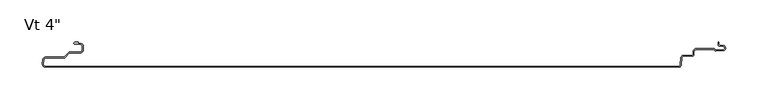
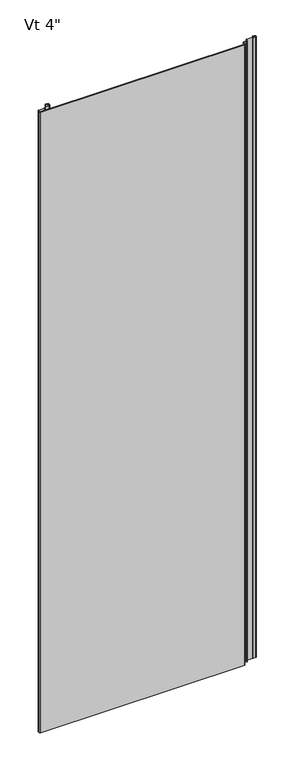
"""IFC4 building model written with IfcOpenShell, lengths in millimetres: plate geometry."""

from ifc_helpers import new_model, si_unit, point, frame_2d, origin, origin_with_axes, place, context, project, spatial, polyline, circle_curve, trimmed, segment, composite_curve, outline, extrude, source, transform, mapped, element, save


def plate_5742ab6b(model_context):
    return source(origin(), model_context, "Body", "SweptSolid", [
        extrude(outline(composite_curve([segment(polyline([(-417.0087549, -97.7184064), (-416.5690675, -92.694441)]), True, "CONTINUOUS"), segment(trimmed(circle_curve(frame_2d((-412.9198392, -93.3052421)), 3.6999926), [point((-416.5690675, -92.694441))], [point((-412.9198392, -89.6052495))], False, "CARTESIAN"), True, "CONTINUOUS"), segment(polyline([(-412.9198392, -89.6052495), (-391.7773997, -89.6052495)]), True, "CONTINUOUS"), segment(trimmed(circle_curve(frame_2d((-391.7773997, -88.3052521)), 1.2999974), [point((-391.7773997, -89.6052495))], [point((-390.8581627, -89.2244891))], True, "CARTESIAN"), True, "CONTINUOUS"), segment(polyline([(-390.8581627, -89.2244891), (-386.0297453, -84.3960716)]), True, "CONTINUOUS"), segment(trimmed(circle_curve(frame_2d((-384.1205608, -86.3052561)), 2.6999946), [point((-386.0297453, -84.3960716))], [point((-384.1205608, -83.6052615))], False, "CARTESIAN"), True, "CONTINUOUS"), segment(polyline([(-384.1205608, -83.6052615), (-372.3096717, -83.6052615)]), True, "CONTINUOUS"), segment(trimmed(circle_curve(frame_2d((-372.3096717, -81.2552662)), 2.3499953), [point((-372.3096717, -83.6052615))], [point((-369.9596764, -81.2552662))], True, "CARTESIAN"), True, "CONTINUOUS"), segment(polyline([(-369.9596764, -81.2552662), (-369.9596764, -76.855275)]), True, "CONTINUOUS"), segment(trimmed(circle_curve(frame_2d((-372.3096717, -76.855275)), 2.3499953), [point((-369.9596764, -76.855275))], [point((-372.3096717, -74.5052797))], True, "CARTESIAN"), True, "CONTINUOUS"), segment(polyline([(-372.3096717, -74.5052797), (-378.8289779, -74.5052797)]), True, "CONTINUOUS"), segment(trimmed(circle_curve(frame_2d((-378.7686908, -73.3067974)), 1.1999976), [point((-378.8289779, -74.5052797))], [point((-379.9683001, -73.2762755))], False, "CARTESIAN"), True, "CONTINUOUS"), segment(trimmed(circle_curve(frame_2d((-378.7686908, -73.3067974)), 1.1999976), [point((-379.9683001, -73.2762755))], [point((-378.7671761, -72.1068008))], False, "CARTESIAN"), True, "CONTINUOUS"), segment(polyline([(-378.7671761, -72.1068008), (-375.0087827, -72.1068008), (-375.0087827, -73.5052797), (-372.3096717, -73.5052797)]), True, "CONTINUOUS"), segment(trimmed(circle_curve(frame_2d((-372.3096717, -76.855275)), 3.3499953), [point((-372.3096717, -73.5052797))], [point((-368.9596764, -76.855275))], False, "CARTESIAN"), True, "CONTINUOUS"), segment(polyline([(-368.9596764, -76.855275), (-368.9596764, -81.2552662)]), True, "CONTINUOUS"), segment(trimmed(circle_curve(frame_2d((-372.3096717, -81.2552662)), 3.3499953), [point((-368.9596764, -81.2552662))], [point((-372.3096717, -84.6052615))], False, "CARTESIAN"), True, "CONTINUOUS"), segment(polyline([(-372.3096717, -84.6052615), (-384.1205608, -84.6052615)]), True, "CONTINUOUS"), segment(trimmed(circle_curve(frame_2d((-384.1205608, -86.3052561)), 1.6999946), [point((-384.1205608, -84.6052615))], [point((-385.3226385, -85.1031784))], True, "CARTESIAN"), True, "CONTINUOUS"), segment(polyline([(-385.3226385, -85.1031784), (-390.8247096, -90.6052495), (-412.9198392, -90.6052495)]), True, "CONTINUOUS"), segment(trimmed(circle_curve(frame_2d((-412.9198392, -93.3052421)), 2.6999926), [point((-412.9198392, -90.6052495))], [point((-415.5765709, -92.8238515))], True, "CARTESIAN"), True, "CONTINUOUS"), segment(polyline([(-415.5765709, -92.8238515), (-416.0125699, -97.8056723)]), True, "CONTINUOUS"), segment(trimmed(circle_curve(frame_2d((-413.4521176, -98.029758)), 2.5702393), [point((-416.0125699, -97.8056723))], [point((-413.509446, -100.5993578))], True, "CARTESIAN"), True, "CONTINUOUS"), segment(polyline([(-413.509446, -100.5993578), (332.5384359, -100.5993578)]), True, "CONTINUOUS"), segment(trimmed(circle_curve(frame_2d((332.5384359, -98.6493637)), 1.9499941), [point((332.5384359, -100.5993578))], [point((334.4810097, -98.8193169))], True, "CARTESIAN"), True, "CONTINUOUS"), segment(polyline([(334.4810097, -98.8193169), (335.2215397, -90.3550205)]), True, "CONTINUOUS"), segment(trimmed(circle_curve(frame_2d((338.2400056, -90.619102)), 3.0299959), [point((335.2215397, -90.3550205))], [point((338.3657441, -87.5917162))], False, "CARTESIAN"), True, "CONTINUOUS"), segment(polyline([(338.3657441, -87.5917162), (348.4586765, -87.5917162)]), True, "CONTINUOUS"), segment(trimmed(circle_curve(frame_2d((348.4595944, -86.6425632)), 0.9491534), [point((348.4586765, -87.5917162))], [point((349.4087478, -86.6425632))], True, "CARTESIAN"), True, "CONTINUOUS"), segment(polyline([(349.4087478, -86.6425632), (349.4087475, -83.5011631)]), True, "CONTINUOUS"), segment(trimmed(circle_curve(frame_2d((353.4087415, -83.5011631)), 3.999994), [point((349.4087475, -83.5011631))], [point((353.4087415, -79.5011691))], False, "CARTESIAN"), True, "CONTINUOUS"), segment(polyline([(353.4087415, -79.5011691), (374.5895515, -79.5011691), (375.7334028, -81.4823775), (384.706811, -81.1271172)]), True, "CONTINUOUS"), segment(trimmed(circle_curve(frame_2d((384.6236622, -79.0268886)), 2.1018739), [point((384.706811, -81.1271172))], [point((384.7037148, -76.9265397))], True, "CARTESIAN"), True, "CONTINUOUS"), segment(polyline([(384.7037148, -76.9265397), (380.6977997, -76.6821247)]), True, "CONTINUOUS"), segment(trimmed(circle_curve(frame_2d((380.8099653, -74.8437512)), 1.8417922), [point((380.6977997, -76.6821247))], [point((378.9686884, -74.8873122))], False, "CARTESIAN"), True, "CONTINUOUS"), segment(polyline([(378.9686884, -74.8873122), (378.9686884, -72.1027656), (379.9686884, -72.1027656), (379.9686884, -74.8731984)]), True, "CONTINUOUS"), segment(trimmed(circle_curve(frame_2d((380.8099653, -74.8437512)), 0.8417922), [point((379.9686884, -74.8731984))], [point((380.7587, -75.6839809))], True, "CARTESIAN"), True, "CONTINUOUS"), segment(polyline([(380.7587, -75.6839809), (384.7543204, -75.9277677)]), True, "CONTINUOUS"), segment(trimmed(circle_curve(frame_2d((384.6236622, -79.0268886)), 3.1018739), [point((384.7543204, -75.9277677))], [point((384.7463704, -82.1263344))], False, "CARTESIAN"), True, "CONTINUOUS"), segment(polyline([(384.7463704, -82.1263344), (376.0344401, -82.4712428)]), True, "CONTINUOUS"), segment(trimmed(circle_curve(frame_2d((375.987224, -81.0220146)), 1.4499971), [point((376.0344401, -82.4712428))], [point((374.7314897, -81.7470132))], False, "CARTESIAN"), True, "CONTINUOUS"), segment(polyline([(374.7314897, -81.7470132), (374.0122013, -80.5011691), (353.4087415, -80.5011691)]), True, "CONTINUOUS"), segment(trimmed(circle_curve(frame_2d((353.4087415, -83.5011631)), 2.999994), [point((353.4087415, -80.5011691))], [point((350.4087475, -83.5011631))], True, "CARTESIAN"), True, "CONTINUOUS"), segment(polyline([(350.4087475, -83.5011631), (350.4087475, -86.6425632)]), True, "CONTINUOUS"), segment(trimmed(circle_curve(frame_2d((348.4595944, -86.6425632)), 1.9491534), [point((350.4087475, -86.6425632))], [point((348.458279, -88.5917162))], False, "CARTESIAN"), True, "CONTINUOUS"), segment(polyline([(348.458279, -88.5917162), (338.3429135, -88.5917162)]), True, "CONTINUOUS"), segment(trimmed(circle_curve(frame_2d((338.2400056, -90.619102)), 2.0299959), [point((338.3429135, -88.5917162))], [point((336.2177344, -90.4421762))], True, "CARTESIAN"), True, "CONTINUOUS"), segment(polyline([(336.2177344, -90.4421762), (335.4771973, -98.9065539)]), True, "CONTINUOUS"), segment(trimmed(circle_curve(frame_2d((332.5384288, -98.649445)), 2.9499941), [point((335.4771973, -98.9065539))], [point((332.5384307, -101.5994391))], False, "CARTESIAN"), True, "CONTINUOUS"), segment(polyline([(332.5384307, -101.5994391), (-413.4521083, -101.5999161)]), True, "CONTINUOUS"), segment(trimmed(circle_curve(frame_2d((-413.4521105, -98.0296768)), 3.5702393), [point((-413.4521083, -101.5999161))], [point((-417.0087549, -97.7184064))], False, "CARTESIAN"), True, "CONTINUOUS")], self_intersect=False)), origin_with_axes(), (0.0, 0.0, 1.0), 2400.0),
    ])


if __name__ == "__main__":
    model = new_model("IFC4")
    model_context = context("Model", 3, world=origin())
    ifc_project = project(units=[si_unit("LENGTHUNIT", "METRE", prefix="MILLI")], contexts=[model_context])
    site = spatial("IfcSite", under=ifc_project)
    building = spatial("IfcBuilding", under=site)
    placement = place(None, origin())
    plate_shape = plate_5742ab6b(model_context)
    element("IfcPlate", 1, ObjectType="KIP-30-Karrier-KP-R19-CP-Vt-FL3-8_SL : Vt 4\"", at=placement, inside=building, context=model_context, shape_type="MappedRepresentation", body=[
        mapped(plate_shape, transform((0.0, 0.0, 0.0), x_axis=(1.0, 0.0, 0.0), y_axis=(0.0, 1.0, 0.0), z_axis=(0.0, 0.0, 1.0))),
    ])
    save(model, "model.ifc")
